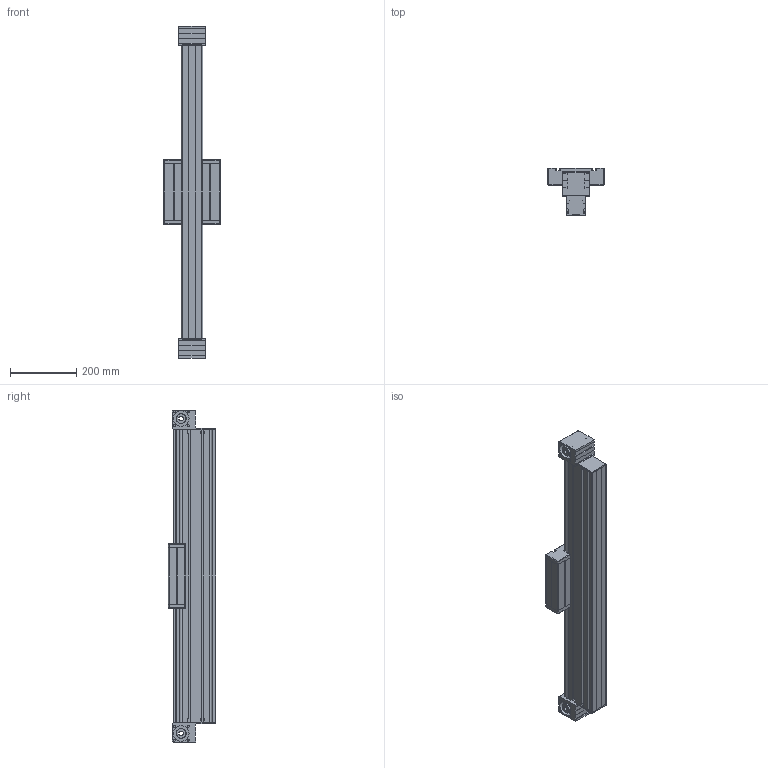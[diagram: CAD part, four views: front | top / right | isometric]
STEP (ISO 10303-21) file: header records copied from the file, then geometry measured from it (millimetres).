
FILE_DESCRIPTION (( 'STEP AP214' ), '1' );
FILE_NAME ('ELZ60 SW.STEP', '2022-07-21T07:10:19', ( '' ), ( '' ), 'SwSTEP 2.0', 'SolidWorks 2020', '' );
FILE_SCHEMA (( 'AUTOMOTIVE_DESIGN' ));
Length unit declared in the file: millimetre
Products named in the file (5): carriage^ELZ60 SW_carriage version 0; timing belt reverse unit^ELZ60 SW_coupling claw pos.2; ELZ60 SW; timing belt reverse unit^ELZ60 SW_coupling claw pos.1; profile^ELZ60 SW_2x guide rods
Assembly tree (4 placements, depth 2):
  ELZ60 SW
    profile^ELZ60 SW_2x guide rods
    carriage^ELZ60 SW_carriage version 0
    timing belt reverse unit^ELZ60 SW_coupling claw pos.1
    timing belt reverse unit^ELZ60 SW_coupling claw pos.2
Bounding box: 170 x 143 x 1000 mm (x, y, z)
Volume: 7727216.6 mm3; surface area: 821610.4 mm2
Topology: 9 solids, 9 shells, 421 faces, 1123 edges, 742 vertices
Faces by surface type: plane 264, cylinder 145, torus 8, cone 4
Entity records: 13536 total; most frequent: DIRECTION 2297, CARTESIAN_POINT 2293, ORIENTED_EDGE 2246, EDGE_CURVE 1123, VECTOR 805, LINE 805, AXIS2_PLACEMENT_3D 746, VERTEX_POINT 742
